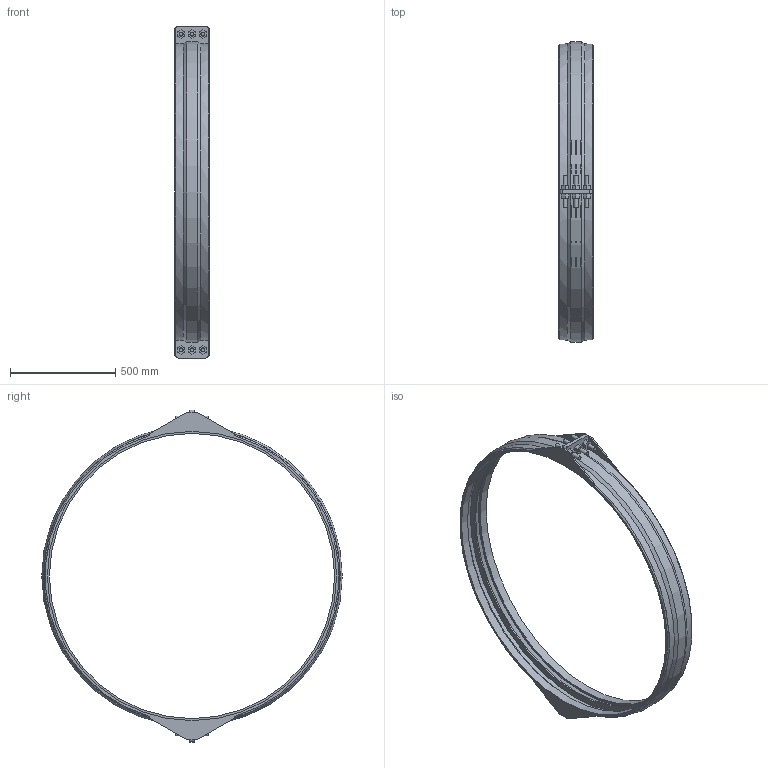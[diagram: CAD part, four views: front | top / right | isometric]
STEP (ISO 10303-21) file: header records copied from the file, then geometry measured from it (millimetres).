
FILE_DESCRIPTION(/* description */ ('VIC SS RESTRAINED COUPLING STYLE 234S (FLEX) (BRS)','CAx-IF Rec.Pracs.---Representation and Presentation of Product Manufacturing Information (PMI)---4.0---2014-10-13'),/* implementation_level */ '2;1');
FILE_NAME(/* name */ 'C:\Users\kkamble\AppData\Roaming\Autodesk\ApplicationPlugins\Back Up\Victaulic_VBSP_Coupling Flexible Restrained_Style 234S (BRS)\Victaulic_VBSP_Coupling Flexible Restrained_Style 234S (BRS)_50psi_54 (1350).stp',/* time_stamp */ '2020-09-22T18:42:20+05:00',/* author */ ('Vjadhav'),/* organization */ ('Victaulic'),/* preprocessor_version */ 'ST-DEVELOPER v17.2',/* originating_system */ 'Autodesk Inventor 2019',/* authorisation */ '');
FILE_SCHEMA (('AP242_MANAGED_MODEL_BASED_3D_ENGINEERING_MIM_LF { 1 0 10303 442 1 1 4 }'));
Length unit declared in the file: inch
Products named in the file (1): Style_234S_Type_2_50psi-54.0
Bounding box: 165.1 x 1425.44 x 1574.8 mm (x, y, z)
Volume: 10488506.7 mm3; surface area: 2209540.5 mm2
Topology: 1 solids, 1 shells, 191 faces, 477 edges, 316 vertices
Faces by surface type: plane 136, cylinder 43, torus 6, cone 6
Full cylindrical faces by diameter (mm): 19.05 x12, 1352.55 x1, 1371.6 x2, 1412.743 x2
Entity records: 6146 total; most frequent: CARTESIAN_POINT 1138, DIRECTION 997, ORIENTED_EDGE 954, EDGE_CURVE 477, LINE 351, VECTOR 351, AXIS2_PLACEMENT_3D 323, VERTEX_POINT 316
